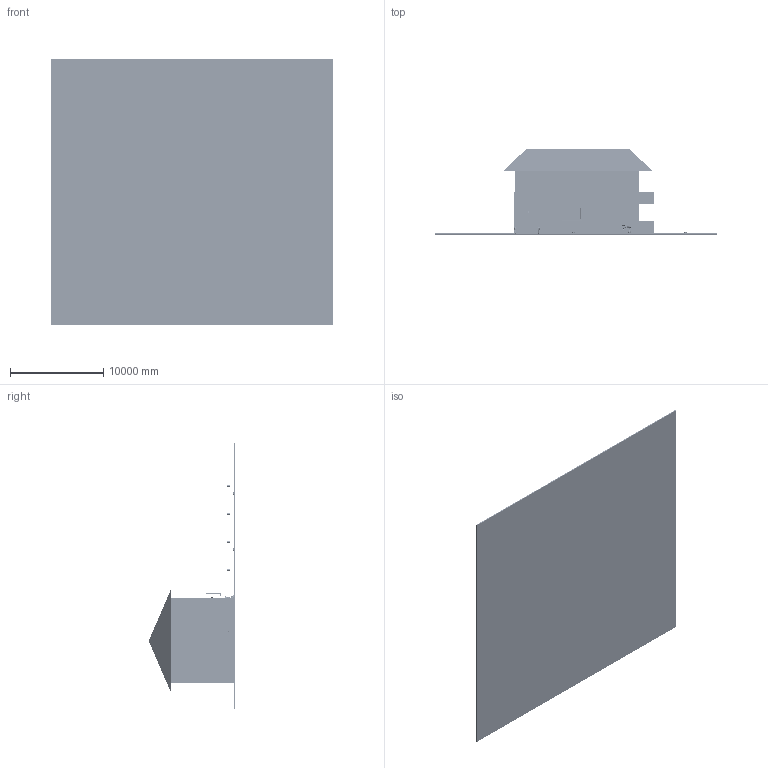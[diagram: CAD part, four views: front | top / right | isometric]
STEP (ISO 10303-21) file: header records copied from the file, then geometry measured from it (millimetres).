
FILE_DESCRIPTION(/* description */ (''),/* implementation_level */ '2;1');
FILE_NAME(/* name */ 'C:\Users\admin\Desktop\inventor\bifamigliare\step\Assieme_bifamiliare2.stp',/* time_stamp */ '2021-11-08T19:05:52+01:00',/* author */ ('admin'),/* organization */ (''),/* preprocessor_version */ 'ST-DEVELOPER v18.1',/* originating_system */ 'Autodesk Inventor 2022',/* authorisation */ '');
FILE_SCHEMA (('AUTOMOTIVE_DESIGN { 1 0 10303 214 3 1 1 }'));
Products named in the file (69): Assieme_bifamiliare2; bifamiliare3; giardino2; Garden lamp; wasserverteilung1; WAND; WARZENBLECH; BODEN; Tap; FILTERBAUGRUPPE; FILTERPLATTE; Schlauch2-1; Schlauch1-1; PMMA-GRUPPE; KUPPLUNG3-4; REDUZIERUNG; PMMA_LANG; FILTERGRUPPE; FILTER; KUPPLUNG1-2; GARDENA_1-2; VENTILBAUGRUPPE; SIGNAL; SUB-D-DOSE; SUB-D-STECKER; DECKEL; VERTEILERGRUPPE; PVC; PVC_ENDE; PVC_EIN; SCHLAUCHANSCHLUSS; PLATTE_1; PLATTE; VENTILGRUPPE; VENTIL; ANSCHLUSSSTUECK-PVC; VENTILZENTRIERUNG; SCHELLE-LINKS; SCHELLE-RECHTS; ZYLINDERSCHRAUBE - DIN 912 - M5 X 20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
Assembly tree (116 placements, depth 6):
  Assieme_bifamiliare2
    bifamiliare3
    giardino2
    Garden lamp  x8
    wasserverteilung1
      WAND
        WARZENBLECH
        BODEN
        Tap
        GARDENA_1-2
      FILTERBAUGRUPPE
        FILTERPLATTE
        Schlauch2-1  x2
        Schlauch1-1  x2
        PMMA-GRUPPE  x2
          KUPPLUNG3-4
            GARDENAKUPPLUNG_1-2_1
          REDUZIERUNG
          PMMA_LANG
          GARDENA_3-4
        FILTERGRUPPE  x2
          FILTER
          KUPPLUNG1-2
            GARDENAKUPPLUNG_1-2
          GARDENA_1-2
      VENTILBAUGRUPPE
        SIGNAL
          SUB-D-DOSE
          SUB-D-STECKER
          DECKEL
        VERTEILERGRUPPE
          PVC  x3
          PVC_ENDE
          PVC_EIN
        SCHLAUCHANSCHLUSS
        PLATTE_1
          PLATTE
        VENTILGRUPPE  x4
          REDUZIERUNG_1
          VENTIL
          ANSCHLUSSSTUECK-PVC
          VENTILZENTRIERUNG
          SCHELLE-LINKS
          SCHELLE-RECHTS
          ZYLINDERSCHRAUBE - DIN 912 - M5 X 20
          STIFT
        GARDENA_1-2_1  x2
        KUPPLUNG1-2_1  x2
          GARDENAKUPPLUNG_1-2
        GARDENA_3-4_1  x2
        KUPPLUNG3-4_1  x2
          GARDENAKUPPLUNG_1-2_1
        1
        2
        3
        4
      WANDBAUGRUPPE
        VORFILTER
          GEHAEUSE
          GLAS
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Bounding box: 30205.13 x 9285 x 28413.51 mm (x, y, z)
Volume: 320708783673.7 mm3; surface area: 5047671165.4 mm2
Topology: 202 solids, 221 shells, 16402 faces, 44406 edges, 28914 vertices
Faces by surface type: plane 7790, cylinder 7595, cone 342, bspline 305, torus 292, sphere 78
Full cylindrical faces by diameter (mm): 1.2 x1, 3 x2, 4.2 x16, 4.3 x18, 5 x32, 5.5 x20, 6 x8, 6.4 x16, 7.5 x24, 8 x59, 8.001 x3, 8.2 x2, 8.5 x16, 9 x15, 10 x10, 11 x16, 12 x3, 13 x8, 14 x20, 14.001 x2, 15 x7, 16 x19, 17 x21, 18 x13, 18.63 x1, 20 x53, 20.517 x1, 20.9 x1, 21 x6, 22 x14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
Entity records: 308685 total; most frequent: CARTESIAN_POINT 157225, DIRECTION 31265, ORIENTED_EDGE 30412, EDGE_CURVE 15216, AXIS2_PLACEMENT_3D 11098, VERTEX_POINT 9747, LINE 9069, VECTOR 9069
